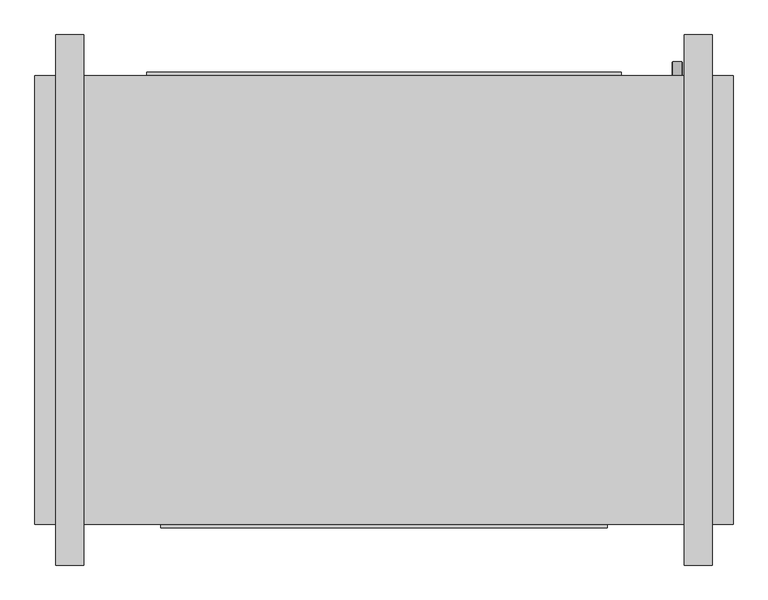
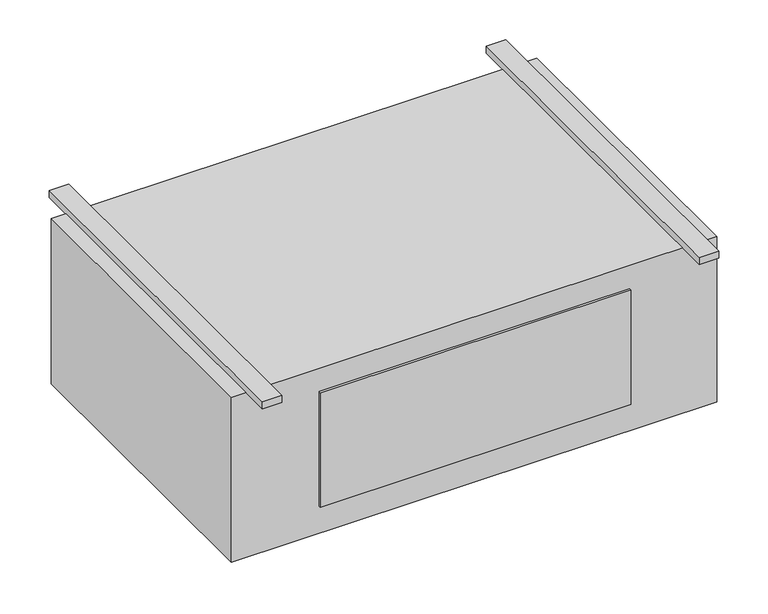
"""IFC4 building model written with IfcOpenShell, lengths in millimetres: proxy geometry, Exposed_High_Capacity_Horizontal_Cabinet_Fan_Coil_Unit_-_42DFA_-_CARRIER_-_2-Pipe_Cool-EHeat_RH_2022 : Size 14 - 277v/60Hz/1Ph - 6 Row 10.0kW."""

import ifcopenshell
import ifcopenshell.guid

model = None  # the IFC model being written
_history = None  # IfcOwnerHistory: only IFC2X3 demands one
_inside = {}  # id of a spatial element -> (the spatial element, [elements in it])
_under = {}  # id of a project, library or spatial element -> (it, [spatial elements below it])
_declared = {}  # id of a project -> (the project, [libraries it declares])
_typed = {}  # id of a type object -> (the type object, [elements of that type])
_made_of = {}  # id of a material, layer set ... -> (it, [elements and type objects made of it])


def new_model(schema):
    """Start an empty IFC model of exactly this schema.

    Asked for "IFC4X3", IfcOpenShell would pick the latest addendum, in which some entities
    have other attributes; the version numbers below select the first issue.
    IFC2X3 requires an IfcOwnerHistory on every rooted entity: one is made here for all.
    """
    global model, _history
    if schema == "IFC4X3":
        model = ifcopenshell.file(schema_version=(4, 3, 0, 0))
    else:
        model = ifcopenshell.file(schema=schema)
    _inside.clear()
    _under.clear()
    _declared.clear()
    _typed.clear()
    _made_of.clear()
    _history = None
    if model.schema == "IFC2X3":
        org = make("IfcOrganization", Name="unknown")
        user = make(
            "IfcPersonAndOrganization",
            ThePerson=make("IfcPerson", FamilyName="unknown"),
            TheOrganization=org,
        )
        app = make(
            "IfcApplication",
            ApplicationDeveloper=org,
            Version="unknown",
            ApplicationFullName="unknown",
            ApplicationIdentifier="unknown",
        )
        _history = make(
            "IfcOwnerHistory",
            OwningUser=user,
            OwningApplication=app,
            ChangeAction="ADDED",
            CreationDate=0,
        )
    return model


def make(cls, **values):
    """One entity of the class cls with the attributes given. An attribute that is None is left unset."""
    return model.create_entity(
        cls, **{name: value for name, value in values.items() if value is not None}
    )


def rooted(cls, **values):
    """An entity with a GlobalId (a new one), such as an element, a storey or a relation."""
    return make(cls, GlobalId=ifcopenshell.guid.new(), OwnerHistory=_history, **values)


def si_unit(unit_type, name, prefix=None):
    """IfcSIUnit, for example si_unit("LENGTHUNIT", "METRE", prefix="MILLI")."""
    return make("IfcSIUnit", UnitType=unit_type, Prefix=prefix, Name=name)


def assignment(units):
    """IfcUnitAssignment: the units of a project."""
    return None if units is None else make("IfcUnitAssignment", Units=units)


def point(xyz):
    """IfcCartesianPoint."""
    return None if xyz is None else make("IfcCartesianPoint", Coordinates=xyz)


def direction(xyz):
    """IfcDirection."""
    return None if xyz is None else make("IfcDirection", DirectionRatios=xyz)


def frame(location, z_axis=None, x_axis=None):
    """IfcAxis2Placement3D, a coordinate frame: its origin and axes. An axis left out is left unset."""
    return make(
        "IfcAxis2Placement3D",
        Location=point(location),
        Axis=direction(z_axis),
        RefDirection=direction(x_axis),
    )


def frame_2d(location, x_axis=None):
    """IfcAxis2Placement2D, a coordinate frame in the plane: its origin and x axis."""
    return make(
        "IfcAxis2Placement2D", Location=point(location), RefDirection=direction(x_axis)
    )


def origin():
    """The frame at (0, 0, 0) with its axes left unset."""
    return frame((0.0, 0.0, 0.0))


def origin_with_axes():
    """The frame at (0, 0, 0) with the z axis (0, 0, 1) and the x axis (1, 0, 0) written out."""
    return frame((0.0, 0.0, 0.0), z_axis=(0.0, 0.0, 1.0), x_axis=(1.0, 0.0, 0.0))


def place(relative_to, where):
    """IfcLocalPlacement: puts the frame where relative to a parent placement (None: the world)."""
    return make(
        "IfcLocalPlacement", PlacementRelTo=relative_to, RelativePlacement=where
    )


def context(
    kind, dimensions, precision=None, world=None, true_north=None, identifier=None
):
    """IfcGeometricRepresentationContext, for example the 3D "Model" context."""
    return make(
        "IfcGeometricRepresentationContext",
        ContextIdentifier=identifier,
        ContextType=kind,
        CoordinateSpaceDimension=dimensions,
        Precision=precision,
        WorldCoordinateSystem=world,
        TrueNorth=true_north,
    )


def project(units=None, contexts=None):
    """IfcProject with its units and contexts."""
    return rooted(
        "IfcProject",
        Name="project",
        RepresentationContexts=contexts,
        UnitsInContext=assignment(units),
    )


def spatial(cls, under=None, at=None, **own):
    """A site, building, storey or space (cls), placed at a placement, below another one or the project."""
    s = rooted(cls, ObjectPlacement=at, **own)
    if under is not None:
        _under.setdefault(under.id(), (under, []))[1].append(s)
    return s


def polyline(points):
    """IfcPolyline through the points."""
    return make("IfcPolyline", Points=[point(p) for p in points])


def circle_curve(where, radius):
    """IfcCircle in the frame where."""
    return make("IfcCircle", Position=where, Radius=radius)


def trimmed(basis, trim1, trim2, sense, master):
    """IfcTrimmedCurve: the piece of a basis curve between two trims."""
    return make(
        "IfcTrimmedCurve",
        BasisCurve=basis,
        Trim1=trim1,
        Trim2=trim2,
        SenseAgreement=sense,
        MasterRepresentation=master,
    )


def segment(curve, same_sense, transition):
    """IfcCompositeCurveSegment."""
    return make(
        "IfcCompositeCurveSegment",
        Transition=transition,
        SameSense=same_sense,
        ParentCurve=curve,
    )


def composite_curve(segments, self_intersect=None):
    """IfcCompositeCurve: segments joined end to end."""
    return make("IfcCompositeCurve", Segments=segments, SelfIntersect=self_intersect)


def outline(outer, holes=None, kind="AREA"):
    """IfcArbitraryClosedProfileDef: a profile drawn as a closed curve; with holes, ...WithVoids."""
    if holes is None:
        return make("IfcArbitraryClosedProfileDef", ProfileType=kind, OuterCurve=outer)
    return make(
        "IfcArbitraryProfileDefWithVoids",
        ProfileType=kind,
        OuterCurve=outer,
        InnerCurves=holes,
    )


def extrude(swept, where, along, depth):
    """IfcExtrudedAreaSolid: the profile swept, set in the frame where, extruded along a direction by depth."""
    return make(
        "IfcExtrudedAreaSolid",
        SweptArea=swept,
        Position=where,
        ExtrudedDirection=direction(along),
        Depth=depth,
    )


def shape(context_of_items, identifier, shape_type, items):
    """IfcShapeRepresentation: the items that make up one representation, for example the "Body"."""
    return make(
        "IfcShapeRepresentation",
        ContextOfItems=context_of_items,
        RepresentationIdentifier=identifier,
        RepresentationType=shape_type,
        Items=items,
    )


def source(mapping_origin, context_of_items, identifier, shape_type, items):
    """IfcRepresentationMap: a shape defined once, which mapped items show again and again."""
    return make(
        "IfcRepresentationMap",
        MappingOrigin=mapping_origin,
        MappedRepresentation=shape(context_of_items, identifier, shape_type, items),
    )


def transform(
    local_origin,
    x_axis=None,
    y_axis=None,
    z_axis=None,
    scale=None,
    scale2=None,
    scale3=None,
    uniform=True,
):
    """IfcCartesianTransformationOperator3D, or its non-uniform kind. x_axis, y_axis, z_axis: its Axis1, 2, 3."""
    if uniform:
        return make(
            "IfcCartesianTransformationOperator3D",
            Axis1=direction(x_axis),
            Axis2=direction(y_axis),
            LocalOrigin=point(local_origin),
            Scale=scale,
            Axis3=direction(z_axis),
        )
    return make(
        "IfcCartesianTransformationOperator3DnonUniform",
        Axis1=direction(x_axis),
        Axis2=direction(y_axis),
        LocalOrigin=point(local_origin),
        Scale=scale,
        Axis3=direction(z_axis),
        Scale2=scale2,
        Scale3=scale3,
    )


def mapped(mapping_source, mapping_target):
    """IfcMappedItem: shows the shape of a source again, moved by a transform."""
    return make(
        "IfcMappedItem", MappingSource=mapping_source, MappingTarget=mapping_target
    )


def made_of(thing, what):
    """Note that an element or type object is made of a material, layer set ...; save() writes the relation."""
    if what is not None:
        _made_of.setdefault(what.id(), (what, []))[1].append(thing)
    return thing


def element(
    cls,
    number,
    at=None,
    inside=None,
    cuts=None,
    type_object=None,
    material=None,
    context=None,
    identifier="Body",
    shape_type=None,
    held_by="IfcProductDefinitionShape",
    body=None,
    shapes=None,
    **own,
):
    """One element of the class cls, such as IfcWall. Its Tag is "e" and its number.

    at: its placement. inside: the storey or other place that contains it. cuts: it is an
    opening in that element (IfcRelVoidsElement). A single representation is given by context,
    identifier, shape_type and body (its items); several are given by shapes. held_by: the class
    of the entity that holds the representations. save() writes the other relations.
    """
    e = rooted(cls, Tag="e%d" % number, ObjectPlacement=at, **own)
    if body is not None:
        shapes = [shape(context, identifier, shape_type, body)]
    if shapes is not None:
        e.Representation = make(held_by, Representations=shapes)
    if inside is not None:
        _inside.setdefault(inside.id(), (inside, []))[1].append(e)
    if cuts is not None:
        rooted(
            "IfcRelVoidsElement", RelatingBuildingElement=cuts, RelatedOpeningElement=e
        )
    if type_object is not None:
        _typed.setdefault(type_object.id(), (type_object, []))[1].append(e)
    return made_of(e, material)


def aggregate(whole, parts):
    """IfcRelAggregates: a whole, such as a stair, and the parts it consists of."""
    return rooted("IfcRelAggregates", RelatingObject=whole, RelatedObjects=parts)


def save(model, path):
    """Write the relations noted so far, then the file.

    IfcRelAggregates (storeys below a building ...), IfcRelContainedInSpatialStructure (elements
    in a storey), IfcRelDefinesByType, IfcRelAssociatesMaterial and IfcRelDeclares: one each for
    every whole, place, type object, material and project.
    """
    for whole, parts in _under.values():
        aggregate(whole, parts)
    for where, things in _inside.values():
        rooted(
            "IfcRelContainedInSpatialStructure",
            RelatedElements=things,
            RelatingStructure=where,
        )
    for kind, things in _typed.values():
        rooted("IfcRelDefinesByType", RelatedObjects=things, RelatingType=kind)
    for what, things in _made_of.values():
        rooted("IfcRelAssociatesMaterial", RelatedObjects=things, RelatingMaterial=what)
    for by, libraries in _declared.values():
        rooted("IfcRelDeclares", RelatingContext=by, RelatedDefinitions=libraries)
    model.write(path)


def mechanical_equipment_70e01742(model_context):
    return source(origin(), model_context, "Body", "SweptSolid", [
        extrude(outline(composite_curve([segment(trimmed(circle_curve(frame_2d((-406.4, 685.8)), 9.525), [point((-406.4, 676.275))], [point((-406.4, 695.325))], False, "CARTESIAN"), True, "CONTINUOUS"), segment(trimmed(circle_curve(frame_2d((-406.4, 685.8)), 9.525), [point((-406.4, 695.325))], [point((-406.4, 676.275))], False, "CARTESIAN"), True, "CONTINUOUS")], self_intersect=False)), frame((0.0, 169.8625, 0.0), z_axis=(0.0, 1.0, 0.0), x_axis=(0.0, 0.0, 1.0)), (0.0, 0.0, 1.0), 25.4),
        extrude(outline(composite_curve([segment(trimmed(circle_curve(frame_2d((-330.2, 685.8)), 7.9375), [point((-330.2, 677.8625))], [point((-330.2, 693.7375))], False, "CARTESIAN"), True, "CONTINUOUS"), segment(trimmed(circle_curve(frame_2d((-330.2, 685.8)), 7.9375), [point((-330.2, 693.7375))], [point((-330.2, 677.8625))], False, "CARTESIAN"), True, "CONTINUOUS")], self_intersect=False)), frame((0.0, 169.8625, 0.0), z_axis=(0.0, 1.0, 0.0), x_axis=(0.0, 0.0, 1.0)), (0.0, 0.0, 1.0), 25.4),
        extrude(outline(composite_curve([segment(trimmed(circle_curve(frame_2d((-254.0, 685.8)), 7.9375), [point((-254.0, 677.8625))], [point((-254.0, 693.7375))], False, "CARTESIAN"), True, "CONTINUOUS"), segment(trimmed(circle_curve(frame_2d((-254.0, 685.8)), 7.9375), [point((-254.0, 693.7375))], [point((-254.0, 677.8625))], False, "CARTESIAN"), True, "CONTINUOUS")], self_intersect=False)), frame((0.0, 169.8625, 0.0), z_axis=(0.0, 1.0, 0.0), x_axis=(0.0, 0.0, 1.0)), (0.0, 0.0, 1.0), 25.4),
        extrude(outline(polyline([(787.4, 169.8625), (787.4, -646.1125), (-482.6, -646.1125), (-482.6, 169.8625), (787.4, 169.8625)])), frame((0.0, 0.0, -457.2), z_axis=(0.0, 0.0, 1.0), x_axis=(1.0, 0.0, 0.0)), (0.0, 0.0, 1.0), 457.2),
        extrude(outline(polyline([(-279.4, 176.2125), (584.2, 176.2125), (584.2, 169.8625), (-279.4, 169.8625), (-279.4, 176.2125)])), frame((0.0, 0.0, -381.0), z_axis=(0.0, 0.0, 1.0), x_axis=(1.0, 0.0, 0.0)), (0.0, 0.0, 1.0), 355.6),
        extrude(outline(polyline([(-393.7, 244.475), (-393.7, -720.725), (-444.5, -720.725), (-444.5, 244.475), (-393.7, 244.475)])), origin_with_axes(), (0.0, 0.0, 1.0), 19.05),
        extrude(outline(polyline([(749.3, 244.475), (749.3, -720.725), (698.5, -720.725), (698.5, 244.475), (749.3, 244.475)])), origin_with_axes(), (0.0, 0.0, 1.0), 19.05),
        extrude(outline(polyline([(558.8, -652.4625), (-254.0, -652.4625), (-254.0, -646.1125), (558.8, -646.1125), (558.8, -652.4625)])), frame((0.0, 0.0, -381.0), z_axis=(0.0, 0.0, 1.0), x_axis=(1.0, 0.0, 0.0)), (0.0, 0.0, 1.0), 317.5),
    ])


if __name__ == "__main__":
    model = new_model("IFC4")
    model_context = context("Model", 3, world=origin())
    ifc_project = project(units=[si_unit("LENGTHUNIT", "METRE", prefix="MILLI")], contexts=[model_context])
    site = spatial("IfcSite", under=ifc_project)
    building = spatial("IfcBuilding", under=site)
    placement = place(None, origin())
    mechanical_equipment_shape = mechanical_equipment_70e01742(model_context)
    element("IfcBuildingElementProxy", 1, Name="Exposed_High_Capacity_Horizontal_Cabinet_Fan_Coil_Unit_-_42DFA_-_CARRIER_-_2-Pipe_Cool-EHeat_RH_2022 : Size 14 - 277v/60Hz/1Ph - 6 Row 10.0kW", ObjectType="Exposed_High_Capacity_Horizontal_Cabinet_Fan_Coil_Unit_-_42DFA_-_CARRIER_-_2-Pipe_Cool-EHeat_RH_2022 : Size 14 - 277v/60Hz/1Ph - 6 Row 10.0kW", at=placement, inside=building, context=model_context, shape_type="MappedRepresentation", body=[
        mapped(mechanical_equipment_shape, transform((0.0, 0.0, 0.0), x_axis=(1.0, 0.0, 0.0), y_axis=(0.0, 1.0, 0.0), z_axis=(0.0, 0.0, 1.0))),
    ])
    save(model, "model.ifc")
